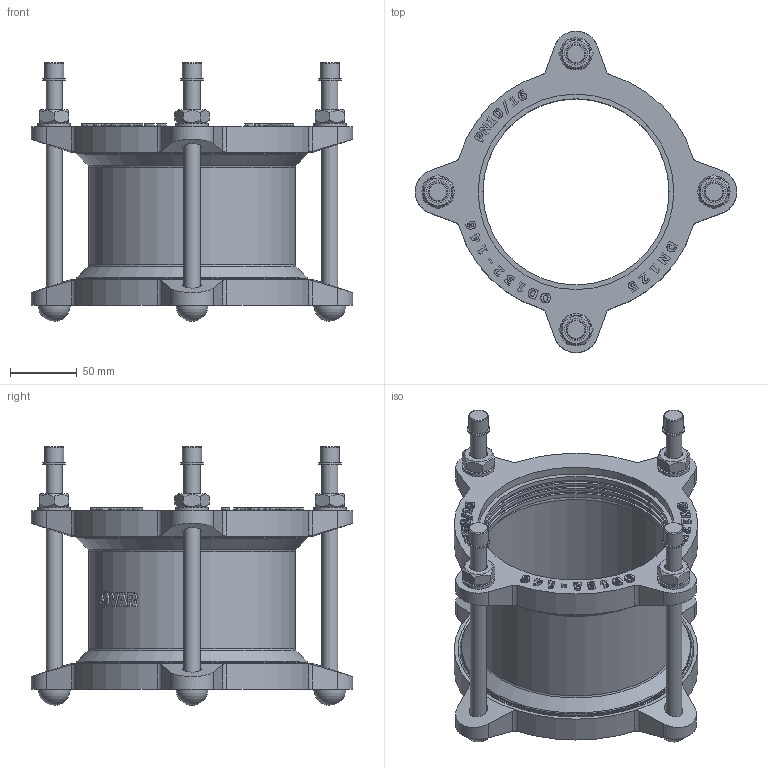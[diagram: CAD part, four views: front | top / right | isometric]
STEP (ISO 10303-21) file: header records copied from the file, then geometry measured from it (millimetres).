
FILE_DESCRIPTION(('STEP AP203'), '1');
FILE_NAME('Cîåäèíèòåëüíàÿ ìóôòà äëÿ æåñòêèõ òðóá', '', ('UNSPECIFIED'), ('UNSPECIFIED'), 'C3D Converter', 'C3D Toolkit', '');
FILE_SCHEMA(('CONFIG_CONTROL_DESIGN'));
Length unit declared in the file: millimetre
Assembly tree (21 placements, depth 2):
  (unnamed)
    (unnamed)
    (unnamed)  x4
    (unnamed)  x4
    (unnamed)  x4
    (unnamed)  x4
    (unnamed)
    (unnamed)
    (unnamed)  x2
Bounding box: 240 x 240 x 193.2 mm (x, y, z)
Volume: 833531.8 mm3; surface area: 333405.2 mm2
Topology: 25 solids, 25 shells, 778 faces, 1963 edges, 1290 vertices
Faces by surface type: plane 313, extrusion 300, cylinder 105, cone 34, torus 22, sphere 4
Full cylindrical faces by diameter (mm): 12 x12, 12.253 x1, 13 x4, 14 x8, 14.4 x4, 16.8 x4, 24 x4, 139 x8, 142.5 x6, 146 x3, 150 x2, 154 x3, 172 x2, 174 x4
Entity records: 30669 total; most frequent: CARTESIAN_POINT 10646, ORIENTED_EDGE 3394, DIRECTION 2249, EDGE_CURVE 1697, VERTEX_POINT 1160, VECTOR 1141, B_SPLINE_CURVE_WITH_KNOTS 964, LINE 841
